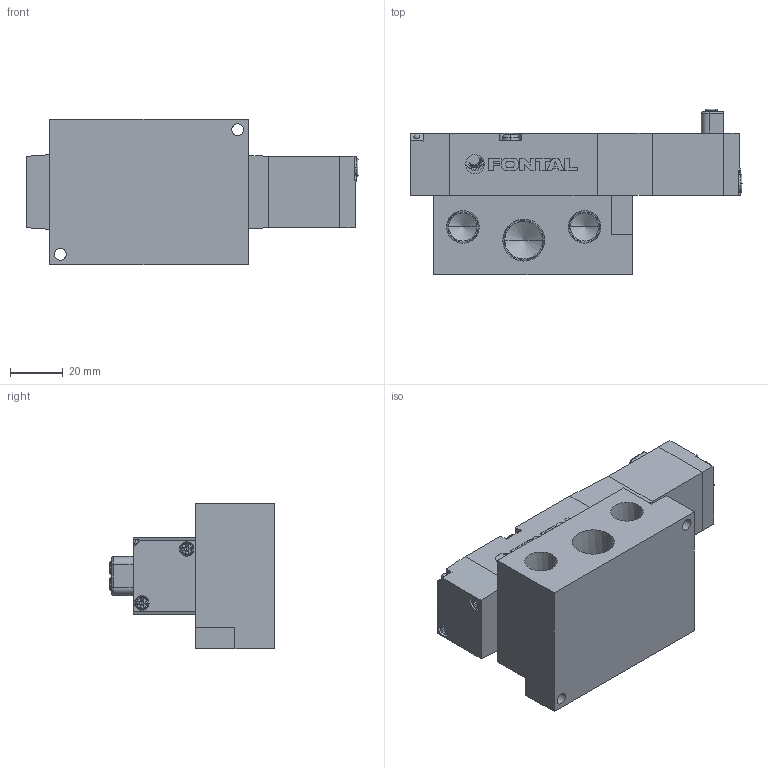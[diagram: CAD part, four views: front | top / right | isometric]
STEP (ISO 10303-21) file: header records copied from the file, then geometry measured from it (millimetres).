
FILE_DESCRIPTION (( 'STEP AP203' ), '1' );
FILE_NAME ('PCS2408#-03-#L#.STEP', '2016-02-04T06:04:52', ( 'Sam Lin' ), ( '' ), 'SwSTEP 2.0', 'SolidWorks 2013', '' );
FILE_SCHEMA (( 'CONFIG_CONTROL_DESIGN' ));
Length unit declared in the file: metre
Products named in the file (12): PCS2406-8; PC08-1; PCS2406-9; PC08-2; PCS2406-7-L; PC08-3; PCS2408#-03-#L#; PCS2406-3-小圓珠; PC08-4; PC08-MARK; PC6-M4; PC6-M3
Assembly tree (16 placements, depth 2):
  PCS2408#-03-#L#
    PC08-1
    PC08-2
    PC08-3
    PCS2406-3-小圓珠  x2
    PC08-4
    PC08-MARK
    PC6-M4  x2
    PC6-M3  x4
    PCS2406-8
    PCS2406-9
    PCS2406-7-L
Bounding box: 125.5 x 62.5 x 55 mm (x, y, z)
Volume: 190868.6 mm3; surface area: 42234.1 mm2
Topology: 22 solids, 22 shells, 462 faces, 1140 edges, 715 vertices
Faces by surface type: plane 256, cylinder 75, cone 71, bspline 60
Entity records: 11740 total; most frequent: CARTESIAN_POINT 2859, ORIENTED_EDGE 1552, DIRECTION 1522, EDGE_CURVE 776, AXIS2_PLACEMENT_3D 528, VERTEX_POINT 509, VECTOR 466, LINE 466
